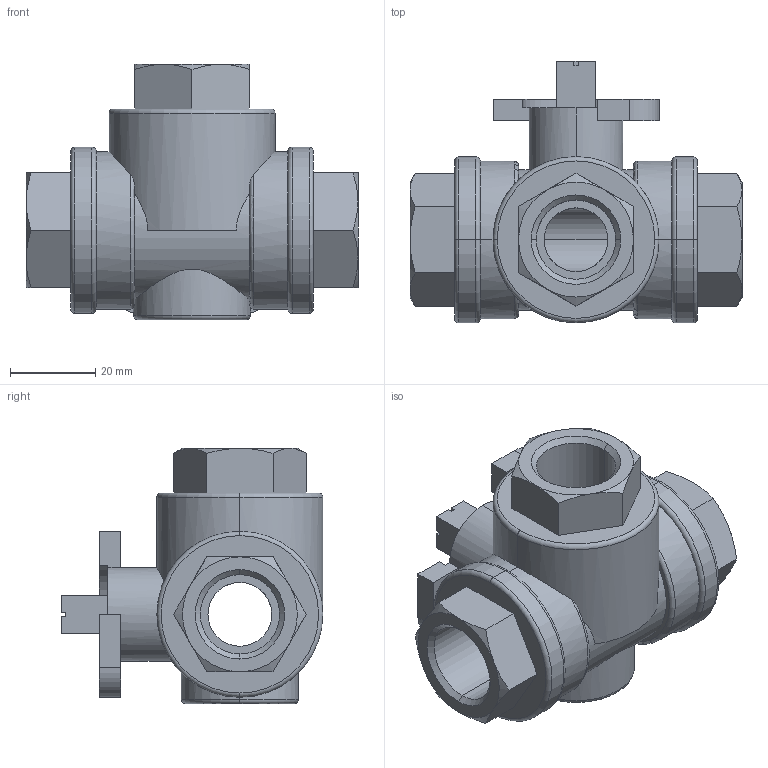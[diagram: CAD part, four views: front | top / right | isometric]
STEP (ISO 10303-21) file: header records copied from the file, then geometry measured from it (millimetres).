
FILE_DESCRIPTION (( 'STEP AP214' ), '1' );
FILE_NAME ('Ballvalve A35-DN15 G1_2.step', '2010-09-23T08:40:55', ( '' ), ( '' ), 'SwSTEP 2.0', 'SolidWorks 2010', '' );
FILE_SCHEMA (( 'AUTOMOTIVE_DESIGN' ));
Length unit declared in the file: millimetre
Products named in the file (1): Ballvalve A35-DN15 G1_2
Bounding box: 78 x 61.5 x 60 mm (x, y, z)
Volume: 81623.5 mm3; surface area: 23270 mm2
Topology: 1 solids, 1 shells, 131 faces, 325 edges, 202 vertices
Faces by surface type: plane 55, cylinder 37, cone 24, torus 15
Entity records: 4478 total; most frequent: CARTESIAN_POINT 1288, ORIENTED_EDGE 650, DIRECTION 640, EDGE_CURVE 325, AXIS2_PLACEMENT_3D 248, VERTEX_POINT 202, EDGE_LOOP 147, LINE 144
